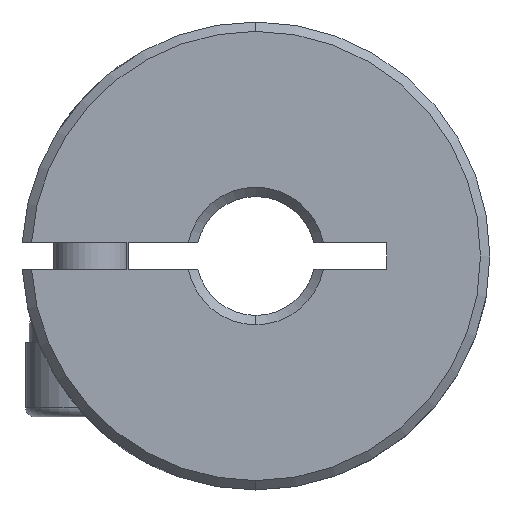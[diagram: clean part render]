
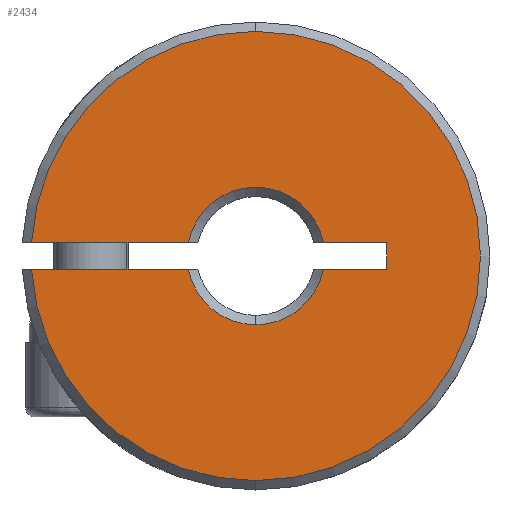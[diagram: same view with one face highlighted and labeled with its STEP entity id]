
A CAD part, front view. The second image highlights one B-rep face of the part: STEP entity #2434.
In plain terms, the highlighted planar face has unit normal (0, -1, 0).
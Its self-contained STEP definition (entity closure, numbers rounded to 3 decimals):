
#101 = DIRECTION ( 'NONE',  ( 0., 0., 1. ) ) ;
#157 = ORIENTED_EDGE ( 'NONE', *, *, #537, .T. ) ;
#174 = AXIS2_PLACEMENT_3D ( 'NONE', #3290, #4200, #4732 ) ;
#275 = VECTOR ( 'NONE', #4123, 1000. ) ;
#313 = EDGE_CURVE ( 'NONE', #5235, #2479, #4890, .T. ) ;
#485 = VERTEX_POINT ( 'NONE', #902 ) ;
#537 = EDGE_CURVE ( 'NONE', #1032, #3653, #2678, .T. ) ;
#565 = CARTESIAN_POINT ( 'NONE',  ( 7., 0.25, 0.7 ) ) ;
#646 = DIRECTION ( 'NONE',  ( 0., 0., 1. ) ) ;
#703 = ORIENTED_EDGE ( 'NONE', *, *, #4651, .F. ) ;
#810 = CIRCLE ( 'NONE', #5331, 3.675 ) ;
#902 = CARTESIAN_POINT ( 'NONE',  ( -3.608, 0.25, 0.7 ) ) ;
#942 = CARTESIAN_POINT ( 'NONE',  ( -12.75, 0.25, 0.7 ) ) ;
#960 = LINE ( 'NONE', #1488, #5341 ) ;
#1022 = AXIS2_PLACEMENT_3D ( 'NONE', #1071, #4002, #3539 ) ;
#1032 = VERTEX_POINT ( 'NONE', #3592 ) ;
#1071 = CARTESIAN_POINT ( 'NONE',  ( 0., 0.25, 0. ) ) ;
#1089 = CARTESIAN_POINT ( 'NONE',  ( 0., 0.25, 0. ) ) ;
#1175 = CARTESIAN_POINT ( 'NONE',  ( -500., 0.25, -13.609 ) ) ;
#1367 = VERTEX_POINT ( 'NONE', #5963 ) ;
#1399 = ORIENTED_EDGE ( 'NONE', *, *, #313, .T. ) ;
#1445 = CARTESIAN_POINT ( 'NONE',  ( 0., 0.25, 0. ) ) ;
#1488 = CARTESIAN_POINT ( 'NONE',  ( -12.75, 0.25, -0.7 ) ) ;
#1576 = LINE ( 'NONE', #565, #2042 ) ;
#1616 = DIRECTION ( 'NONE',  ( 0., 1., 0. ) ) ;
#1659 = CARTESIAN_POINT ( 'NONE',  ( 0., 0.25, 0. ) ) ;
#1787 = ORIENTED_EDGE ( 'NONE', *, *, #2342, .T. ) ;
#1820 = CIRCLE ( 'NONE', #174, 3.675 ) ;
#2042 = VECTOR ( 'NONE', #101, 1000. ) ;
#2057 = CARTESIAN_POINT ( 'NONE',  ( 3.608, 0.25, 0.7 ) ) ;
#2086 = DIRECTION ( 'NONE',  ( 0., 0., 1. ) ) ;
#2131 = EDGE_CURVE ( 'NONE', #4982, #3228, #2386, .T. ) ;
#2342 = EDGE_CURVE ( 'NONE', #3683, #2776, #3739, .T. ) ;
#2386 = LINE ( 'NONE', #942, #4049 ) ;
#2434 = ADVANCED_FACE ( 'NONE', ( #6038 ), #4104, .F. ) ;
#2458 = DIRECTION ( 'NONE',  ( 1., 0., 0. ) ) ;
#2479 = VERTEX_POINT ( 'NONE', #3115 ) ;
#2571 = DIRECTION ( 'NONE',  ( 0., 0., 1. ) ) ;
#2630 = ORIENTED_EDGE ( 'NONE', *, *, #4450, .F. ) ;
#2678 = CIRCLE ( 'NONE', #1022, 12. ) ;
#2695 = CARTESIAN_POINT ( 'NONE',  ( 3.608, 0.25, -0.7 ) ) ;
#2776 = VERTEX_POINT ( 'NONE', #3929 ) ;
#2918 = DIRECTION ( 'NONE',  ( 1., 0., 0. ) ) ;
#3103 = ORIENTED_EDGE ( 'NONE', *, *, #3847, .T. ) ;
#3115 = CARTESIAN_POINT ( 'NONE',  ( 0., 0.25, -3.675 ) ) ;
#3148 = EDGE_CURVE ( 'NONE', #5235, #1367, #4726, .T. ) ;
#3176 = ORIENTED_EDGE ( 'NONE', *, *, #3712, .F. ) ;
#3228 = VERTEX_POINT ( 'NONE', #2057 ) ;
#3290 = CARTESIAN_POINT ( 'NONE',  ( 0., 0.25, 0. ) ) ;
#3378 = EDGE_LOOP ( 'NONE', ( #4604, #1399, #3103, #3176, #157, #5975, #1787, #703, #4228, #3924, #2630 ) ) ;
#3396 = CARTESIAN_POINT ( 'NONE',  ( 0., 0.25, -12. ) ) ;
#3539 = DIRECTION ( 'NONE',  ( 0., 0., 1. ) ) ;
#3592 = CARTESIAN_POINT ( 'NONE',  ( -11.98, 0.25, -0.7 ) ) ;
#3646 = CIRCLE ( 'NONE', #4330, 12. ) ;
#3653 = VERTEX_POINT ( 'NONE', #3396 ) ;
#3683 = VERTEX_POINT ( 'NONE', #4865 ) ;
#3691 = AXIS2_PLACEMENT_3D ( 'NONE', #1445, #4866, #2086 ) ;
#3712 = EDGE_CURVE ( 'NONE', #1032, #5615, #960, .T. ) ;
#3739 = CIRCLE ( 'NONE', #5343, 12. ) ;
#3847 = EDGE_CURVE ( 'NONE', #2479, #5615, #1820, .T. ) ;
#3914 = DIRECTION ( 'NONE',  ( 0., 0., 1. ) ) ;
#3924 = ORIENTED_EDGE ( 'NONE', *, *, #2131, .F. ) ;
#3929 = CARTESIAN_POINT ( 'NONE',  ( -11.98, 0.25, 0.7 ) ) ;
#4002 = DIRECTION ( 'NONE',  ( 0., -1., 0. ) ) ;
#4003 = EDGE_CURVE ( 'NONE', #3653, #3683, #3646, .T. ) ;
#4004 = CARTESIAN_POINT ( 'NONE',  ( 7., 0.25, 0.7 ) ) ;
#4049 = VECTOR ( 'NONE', #5293, 1000. ) ;
#4104 = PLANE ( 'NONE',  #4641 ) ;
#4123 = DIRECTION ( 'NONE',  ( -1., 0., 0. ) ) ;
#4174 = LINE ( 'NONE', #5699, #275 ) ;
#4200 = DIRECTION ( 'NONE',  ( 0., 1., 0. ) ) ;
#4228 = ORIENTED_EDGE ( 'NONE', *, *, #4476, .T. ) ;
#4330 = AXIS2_PLACEMENT_3D ( 'NONE', #4378, #4933, #3914 ) ;
#4378 = CARTESIAN_POINT ( 'NONE',  ( 0., 0.25, 0. ) ) ;
#4450 = EDGE_CURVE ( 'NONE', #1367, #4982, #1576, .T. ) ;
#4476 = EDGE_CURVE ( 'NONE', #485, #3228, #810, .T. ) ;
#4604 = ORIENTED_EDGE ( 'NONE', *, *, #3148, .F. ) ;
#4641 = AXIS2_PLACEMENT_3D ( 'NONE', #1175, #1616, #646 ) ;
#4651 = EDGE_CURVE ( 'NONE', #485, #2776, #4174, .T. ) ;
#4726 = LINE ( 'NONE', #5346, #5579 ) ;
#4732 = DIRECTION ( 'NONE',  ( 0., 0., 1. ) ) ;
#4865 = CARTESIAN_POINT ( 'NONE',  ( 0., 0.25, 12. ) ) ;
#4866 = DIRECTION ( 'NONE',  ( 0., 1., 0. ) ) ;
#4890 = CIRCLE ( 'NONE', #3691, 3.675 ) ;
#4930 = DIRECTION ( 'NONE',  ( 0., -1., 0. ) ) ;
#4933 = DIRECTION ( 'NONE',  ( 0., -1., 0. ) ) ;
#4982 = VERTEX_POINT ( 'NONE', #4004 ) ;
#5235 = VERTEX_POINT ( 'NONE', #2695 ) ;
#5293 = DIRECTION ( 'NONE',  ( -1., 0., 0. ) ) ;
#5331 = AXIS2_PLACEMENT_3D ( 'NONE', #1659, #6054, #6029 ) ;
#5341 = VECTOR ( 'NONE', #2458, 1000. ) ;
#5343 = AXIS2_PLACEMENT_3D ( 'NONE', #1089, #4930, #2571 ) ;
#5346 = CARTESIAN_POINT ( 'NONE',  ( -12.75, 0.25, -0.7 ) ) ;
#5552 = CARTESIAN_POINT ( 'NONE',  ( -3.608, 0.25, -0.7 ) ) ;
#5579 = VECTOR ( 'NONE', #2918, 1000. ) ;
#5615 = VERTEX_POINT ( 'NONE', #5552 ) ;
#5699 = CARTESIAN_POINT ( 'NONE',  ( -12.75, 0.25, 0.7 ) ) ;
#5963 = CARTESIAN_POINT ( 'NONE',  ( 7., 0.25, -0.7 ) ) ;
#5975 = ORIENTED_EDGE ( 'NONE', *, *, #4003, .T. ) ;
#6029 = DIRECTION ( 'NONE',  ( 0., 0., 1. ) ) ;
#6038 = FACE_OUTER_BOUND ( 'NONE', #3378, .T. ) ;
#6054 = DIRECTION ( 'NONE',  ( 0., 1., 0. ) ) ;
